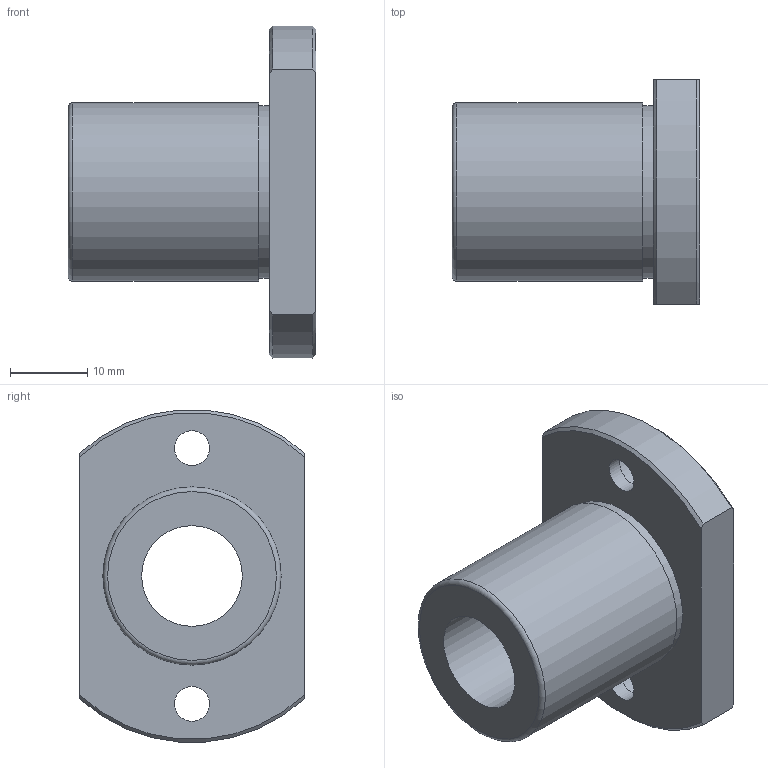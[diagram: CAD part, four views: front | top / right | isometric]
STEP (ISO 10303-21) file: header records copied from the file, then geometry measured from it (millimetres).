
FILE_DESCRIPTION(('STEP AP203'),'1');
FILE_NAME('//192.168.1.1/share/s-4 技術開発/s-4-4_CAD/s-4-4-3_見直し済み/002 修正済み/NFEO-V(済)/NFEO-V_TOP/NFEO-13VUU.step','2022-03-08T01:30:06',(' '),(' '),'Spatial InterOp 3D',' ',' ');
FILE_SCHEMA(('CONFIG_CONTROL_DESIGN'));
Length unit declared in the file: millimetre
Products named in the file (1): 1
Bounding box: 32 x 29 x 42.85 mm (x, y, z)
Volume: 12949.6 mm3; surface area: 6153 mm2
Topology: 1 solids, 1 shells, 22 faces, 49 edges, 33 vertices
Faces by surface type: cylinder 9, plane 8, cone 4, torus 1
Full cylindrical faces by diameter (mm): 4.5 x2, 7.5 x2, 13 x1, 22.3 x1, 23 x1
Entity records: 630 total; most frequent: CARTESIAN_POINT 117, DIRECTION 100, ORIENTED_EDGE 78, AXIS2_PLACEMENT_3D 46, EDGE_LOOP 40, EDGE_CURVE 39, VERTEX_POINT 31, FACE_OUTER_BOUND 30
